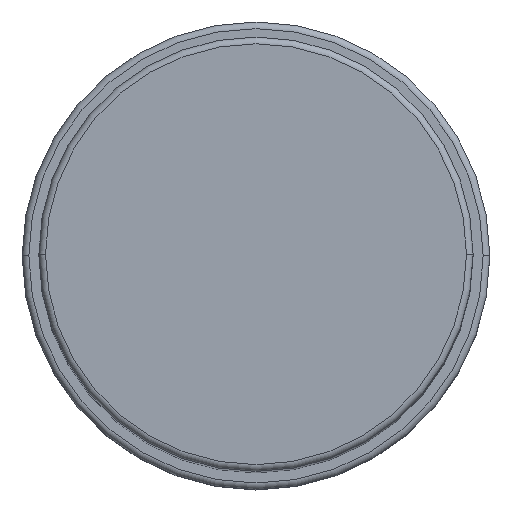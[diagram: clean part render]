
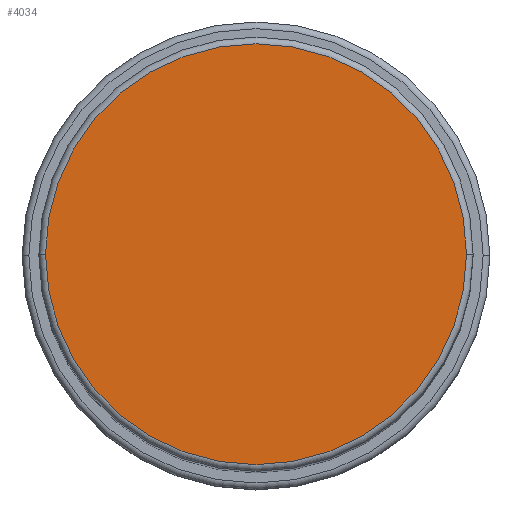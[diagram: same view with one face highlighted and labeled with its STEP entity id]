
A CAD part, top view. The second image highlights one B-rep face of the part: STEP entity #4034.
In plain terms, the highlighted planar face has unit normal (0, 0, 1).
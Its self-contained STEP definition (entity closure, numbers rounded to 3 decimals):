
#9 = DIRECTION ( 'NONE',  ( 0., 0., 1. ) ) ;
#585 = EDGE_LOOP ( 'NONE', ( #5005, #1553 ) ) ;
#589 = CIRCLE ( 'NONE', #3344, 31.5 ) ;
#617 = FACE_OUTER_BOUND ( 'NONE', #585, .T. ) ;
#1337 = DIRECTION ( 'NONE',  ( 0., 0., 1. ) ) ;
#1484 = CARTESIAN_POINT ( 'NONE',  ( 31.5, 0., 153. ) ) ;
#1505 = DIRECTION ( 'NONE',  ( 0., 0., 1. ) ) ;
#1553 = ORIENTED_EDGE ( 'NONE', *, *, #3147, .T. ) ;
#2110 = CIRCLE ( 'NONE', #4270, 31.5 ) ;
#2514 = PLANE ( 'NONE',  #4040 ) ;
#2909 = DIRECTION ( 'NONE',  ( 1., 0., 0. ) ) ;
#2933 = CARTESIAN_POINT ( 'NONE',  ( -31.5, 0., 153. ) ) ;
#3147 = EDGE_CURVE ( 'NONE', #4777, #4541, #2110, .T. ) ;
#3295 = CARTESIAN_POINT ( 'NONE',  ( 0., 0., 153. ) ) ;
#3344 = AXIS2_PLACEMENT_3D ( 'NONE', #3897, #1337, #3466 ) ;
#3466 = DIRECTION ( 'NONE',  ( 1., 0., 0. ) ) ;
#3897 = CARTESIAN_POINT ( 'NONE',  ( 0., 0., 153. ) ) ;
#4034 = ADVANCED_FACE ( 'NONE', ( #617 ), #2514, .T. ) ;
#4040 = AXIS2_PLACEMENT_3D ( 'NONE', #3295, #9, #2909 ) ;
#4270 = AXIS2_PLACEMENT_3D ( 'NONE', #4844, #1505, #4879 ) ;
#4541 = VERTEX_POINT ( 'NONE', #1484 ) ;
#4777 = VERTEX_POINT ( 'NONE', #2933 ) ;
#4844 = CARTESIAN_POINT ( 'NONE',  ( 0., 0., 153. ) ) ;
#4866 = EDGE_CURVE ( 'NONE', #4541, #4777, #589, .T. ) ;
#4879 = DIRECTION ( 'NONE',  ( 1., 0., 0. ) ) ;
#5005 = ORIENTED_EDGE ( 'NONE', *, *, #4866, .T. ) ;
